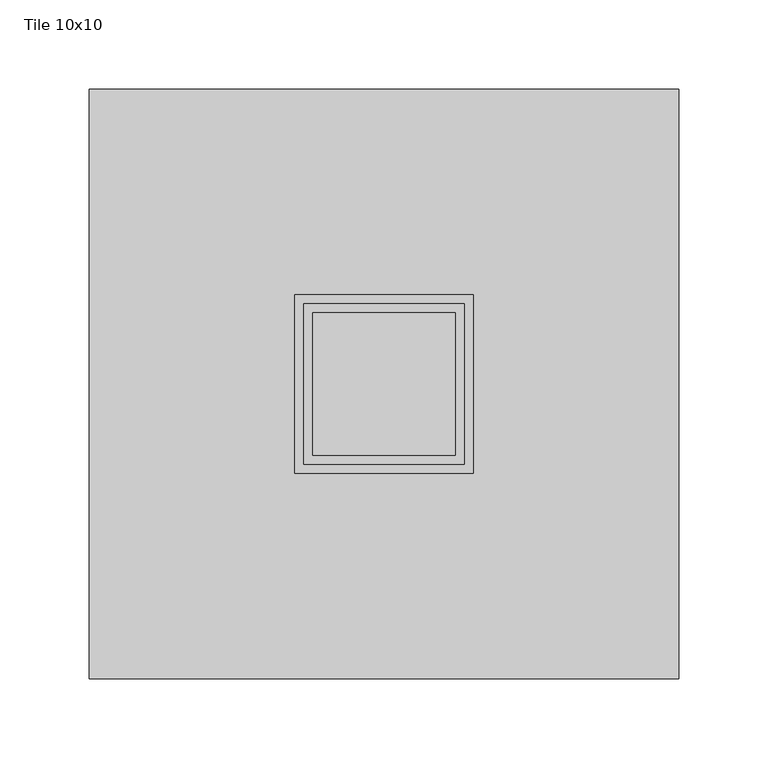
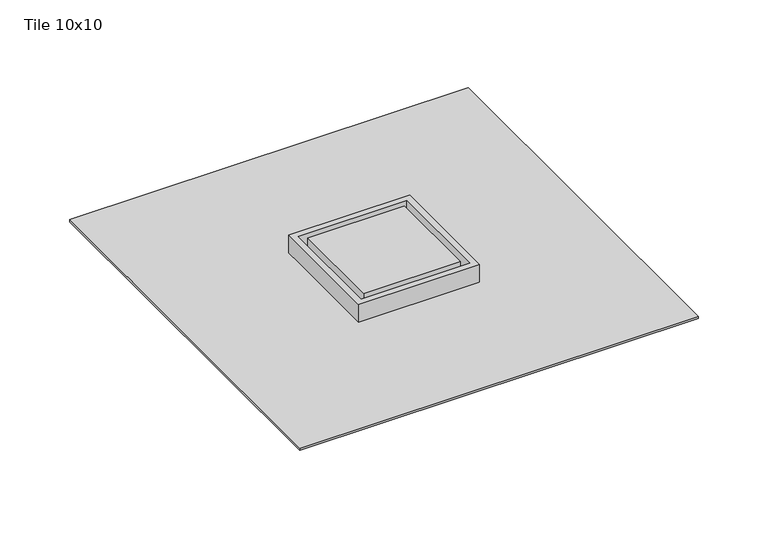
"""IFC4 building model written with IfcOpenShell, lengths in millimetres: sanitary terminal geometry, Z_DO_NOT_USE_NLRS_PF_52_UN_Aqua Jewels Quattro Tile Complete_Easydrain : Tile 10x10."""

from ifc_helpers import new_model, si_unit, frame, origin, place, context, project, spatial, polyline, outline, extrude, source, transform, mapped, element, save


def tile_10x10_58bf98e1(model_context):
    return source(origin(), model_context, "Body", "SweptSolid", [
        extrude(outline(polyline([(165.0, 165.0), (165.0, -165.0), (-165.0, -165.0), (-165.0, 165.0), (165.0, 165.0)])), frame((0.0, 0.0, -18.0), z_axis=(0.0, 0.0, 1.0), x_axis=(1.0, 0.0, 0.0)), (0.0, 0.0, 1.0), 2.0),
        extrude(outline(polyline([(50.0, 50.0), (50.0, -50.0), (-50.0, -50.0), (-50.0, 50.0), (50.0, 50.0)])), frame((0.0, 0.0, -37.0), z_axis=(0.0, 0.0, 1.0), x_axis=(1.0, 0.0, 0.0)), (0.0, 0.0, 1.0), 20.0),
        extrude(outline(polyline([(50.0, 50.0), (50.0, -50.0), (-50.0, -50.0), (-50.0, 50.0), (50.0, 50.0)]), holes=[polyline([(45.0, 45.0), (-45.0, 45.0), (-45.0, -45.0), (45.0, -45.0), (45.0, 45.0)])]), frame((0.0, 0.0, -17.0), z_axis=(0.0, 0.0, 1.0), x_axis=(1.0, 0.0, 0.0)), (0.0, 0.0, 1.0), 17.0),
        extrude(outline(polyline([(40.0, 40.0), (40.0, -40.0), (-40.0, -40.0), (-40.0, 40.0), (40.0, 40.0)])), frame((0.0, 0.0, -17.0), z_axis=(0.0, 0.0, 1.0), x_axis=(1.0, 0.0, 0.0)), (0.0, 0.0, 1.0), 17.0),
        extrude(outline(polyline([(80.0, 80.0), (80.0, -80.0), (-80.0, -80.0), (-80.0, 80.0), (80.0, 80.0)])), frame((0.0, 0.0, -19.0), z_axis=(0.0, 0.0, 1.0), x_axis=(1.0, 0.0, 0.0)), (0.0, 0.0, 1.0), 2.0),
    ])


if __name__ == "__main__":
    model = new_model("IFC4")
    model_context = context("Model", 3, world=origin())
    ifc_project = project(units=[si_unit("LENGTHUNIT", "METRE", prefix="MILLI")], contexts=[model_context])
    site = spatial("IfcSite", under=ifc_project)
    building = spatial("IfcBuilding", under=site)
    placement = place(None, origin())
    tile_10x10_shape = tile_10x10_58bf98e1(model_context)
    element("IfcSanitaryTerminal", 1, ObjectType="Z_DO_NOT_USE_NLRS_PF_52_UN_Aqua Jewels Quattro Tile Complete_Easydrain : Tile 10x10", at=placement, inside=building, context=model_context, shape_type="MappedRepresentation", body=[
        mapped(tile_10x10_shape, transform((0.0, 0.0, 0.0), x_axis=(1.0, 0.0, 0.0), y_axis=(0.0, 1.0, 0.0), z_axis=(0.0, 0.0, 1.0))),
    ])
    save(model, "model.ifc")
